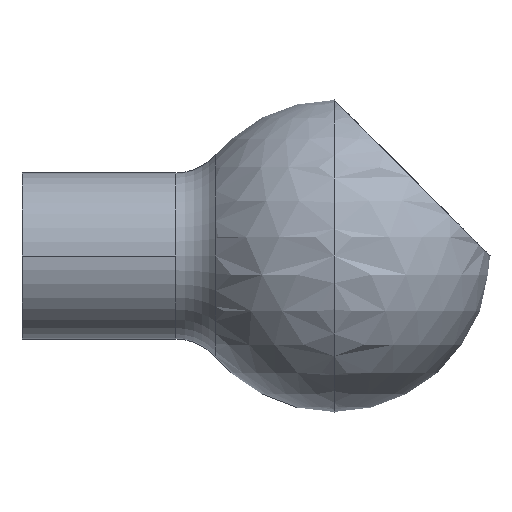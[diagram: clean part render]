
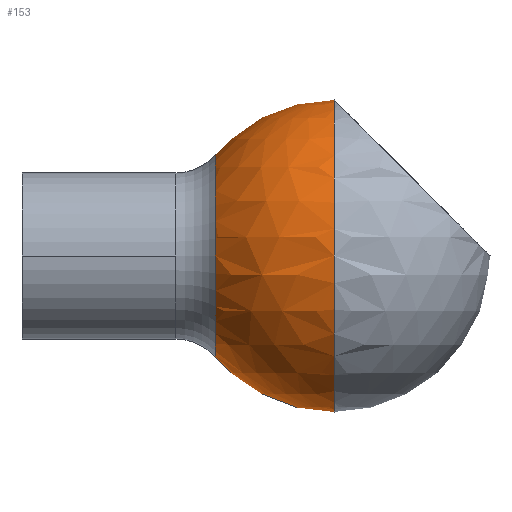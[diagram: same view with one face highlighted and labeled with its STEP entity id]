
A CAD part, left-side view. The second image highlights one B-rep face of the part: STEP entity #153.
In plain terms, the highlighted spherical face has radius 15 mm.
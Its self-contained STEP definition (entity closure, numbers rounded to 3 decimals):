
#153 = ADVANCED_FACE( '', ( #427 ), #428, .T. );
#169 = VERTEX_POINT( '', #446 );
#183 = VERTEX_POINT( '', #463 );
#199 = EDGE_CURVE( '', #215, #169, #480, .T. );
#215 = VERTEX_POINT( '', #496 );
#217 = EDGE_CURVE( '', #369, #325, #498, .T. );
#275 = EDGE_CURVE( '', #183, #215, #563, .T. );
#279 = EDGE_CURVE( '', #169, #369, #567, .T. );
#281 = EDGE_CURVE( '', #375, #351, #569, .T. );
#309 = VERTEX_POINT( '', #600 );
#323 = EDGE_CURVE( '', #325, #375, #616, .T. );
#325 = VERTEX_POINT( '', #618 );
#351 = VERTEX_POINT( '', #646 );
#359 = EDGE_CURVE( '', #309, #183, #656, .T. );
#369 = VERTEX_POINT( '', #667 );
#375 = VERTEX_POINT( '', #675 );
#385 = EDGE_CURVE( '', #351, #309, #686, .T. );
#427 = FACE_OUTER_BOUND( '', #719, .T. );
#428 = SPHERICAL_SURFACE( '', #720, 15. );
#446 = CARTESIAN_POINT( '', ( 0., -18.601, 9.75 ) );
#463 = CARTESIAN_POINT( '', ( 9., -18.601, -3.75 ) );
#480 = CIRCLE( '', #801, 9.75 );
#496 = CARTESIAN_POINT( '', ( 0., -18.601, -9.75 ) );
#498 = CIRCLE( '', #825, 12. );
#563 = CIRCLE( '', #905, 9.75 );
#567 = CIRCLE( '', #910, 9.75 );
#569 = CIRCLE( '', #913, 15. );
#600 = CARTESIAN_POINT( '', ( 9., -30., -12. ) );
#616 = CIRCLE( '', #985, 15. );
#618 = CARTESIAN_POINT( '', ( 9., -30., 12. ) );
#646 = CARTESIAN_POINT( '', ( 0., -30., -15. ) );
#656 = CIRCLE( '', #1035, 12. );
#667 = CARTESIAN_POINT( '', ( 9., -18.601, 3.75 ) );
#675 = CARTESIAN_POINT( '', ( 0., -30., 15. ) );
#686 = CIRCLE( '', #1070, 15. );
#719 = EDGE_LOOP( '', ( #1107, #1108, #1109, #1110, #1111, #1112, #1113, #1114 ) );
#720 = AXIS2_PLACEMENT_3D( '', #1115, #1116, #1117 );
#801 = AXIS2_PLACEMENT_3D( '', #1191, #1192, #1193 );
#825 = AXIS2_PLACEMENT_3D( '', #1204, #1205, #1206 );
#905 = AXIS2_PLACEMENT_3D( '', #1311, #1312, #1313 );
#910 = AXIS2_PLACEMENT_3D( '', #1314, #1315, #1316 );
#913 = AXIS2_PLACEMENT_3D( '', #1317, #1318, #1319 );
#985 = AXIS2_PLACEMENT_3D( '', #1365, #1366, #1367 );
#1035 = AXIS2_PLACEMENT_3D( '', #1427, #1428, #1429 );
#1070 = AXIS2_PLACEMENT_3D( '', #1460, #1461, #1462 );
#1107 = ORIENTED_EDGE( '', *, *, #281, .F. );
#1108 = ORIENTED_EDGE( '', *, *, #323, .F. );
#1109 = ORIENTED_EDGE( '', *, *, #217, .F. );
#1110 = ORIENTED_EDGE( '', *, *, #279, .F. );
#1111 = ORIENTED_EDGE( '', *, *, #199, .F. );
#1112 = ORIENTED_EDGE( '', *, *, #275, .F. );
#1113 = ORIENTED_EDGE( '', *, *, #359, .F. );
#1114 = ORIENTED_EDGE( '', *, *, #385, .F. );
#1115 = CARTESIAN_POINT( '', ( 0., -30., 0. ) );
#1116 = DIRECTION( '', ( 0., 0., 1. ) );
#1117 = DIRECTION( '', ( 1., 0., 0. ) );
#1191 = CARTESIAN_POINT( '', ( 0., -18.601, 0. ) );
#1192 = DIRECTION( '', ( 0., 1., 0. ) );
#1193 = DIRECTION( '', ( 0., 0., 1. ) );
#1204 = CARTESIAN_POINT( '', ( 9., -30., 0. ) );
#1205 = DIRECTION( '', ( 1., 0., 0. ) );
#1206 = DIRECTION( '', ( 0., 0., -1. ) );
#1311 = CARTESIAN_POINT( '', ( 0., -18.601, 0. ) );
#1312 = DIRECTION( '', ( 0., 1., 0. ) );
#1313 = DIRECTION( '', ( 0., 0., 1. ) );
#1314 = CARTESIAN_POINT( '', ( 0., -18.601, 0. ) );
#1315 = DIRECTION( '', ( 0., 1., 0. ) );
#1316 = DIRECTION( '', ( 0., 0., 1. ) );
#1317 = CARTESIAN_POINT( '', ( 0., -30., 0. ) );
#1318 = DIRECTION( '', ( 0., -1., 0. ) );
#1319 = DIRECTION( '', ( 0., 0., 1. ) );
#1365 = CARTESIAN_POINT( '', ( 0., -30., 0. ) );
#1366 = DIRECTION( '', ( 0., -1., 0. ) );
#1367 = DIRECTION( '', ( 0., 0., 1. ) );
#1427 = CARTESIAN_POINT( '', ( 9., -30., 0. ) );
#1428 = DIRECTION( '', ( 1., 0., 0. ) );
#1429 = DIRECTION( '', ( 0., 0., -1. ) );
#1460 = CARTESIAN_POINT( '', ( 0., -30., 0. ) );
#1461 = DIRECTION( '', ( 0., -1., 0. ) );
#1462 = DIRECTION( '', ( 0., 0., 1. ) );
